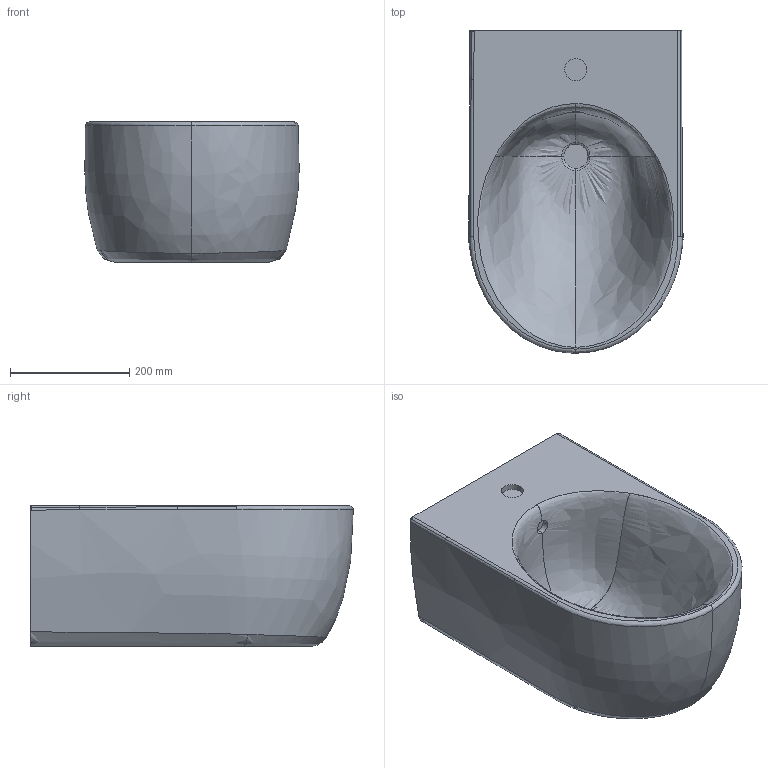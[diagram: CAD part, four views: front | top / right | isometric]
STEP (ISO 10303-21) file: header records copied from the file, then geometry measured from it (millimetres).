
FILE_DESCRIPTION(/* description */ (''),/* implementation_level */ '2;1');
FILE_NAME(/* name */ 'C:\Planerdaten\Export PLA\234000000\stp\234000000.stp',/* time_stamp */ '2020-05-29T12:55:30+02:00',/* author */ ('JANAN'),/* organization */ (''),/* preprocessor_version */ 'ST-DEVELOPER v16.13',/* originating_system */ 'Autodesk Inventor 2018',/* authorisation */ '');
FILE_SCHEMA (('AUTOMOTIVE_DESIGN { 1 0 10303 214 3 1 1 }'));
Length unit declared in the file: millimetre
Products named in the file (1): WBI Ge+iCn T54 m/ÜLF
Bounding box: 358.91 x 540.11 x 235 mm (x, y, z)
Volume: 28127606.5 mm3; surface area: 785376.8 mm2
Topology: 1 solids, 1 shells, 46 faces, 162 edges, 124 vertices
Faces by surface type: bspline 33, plane 9, cylinder 4
Full cylindrical faces by diameter (mm): 27 x2, 54 x2
Entity records: 26158 total; most frequent: CARTESIAN_POINT 24915, ORIENTED_EDGE 316, EDGE_CURVE 158, DIRECTION 140, VERTEX_POINT 124, B_SPLINE_CURVE_WITH_KNOTS 91, AXIS2_PLACEMENT_3D 63, EDGE_LOOP 56
